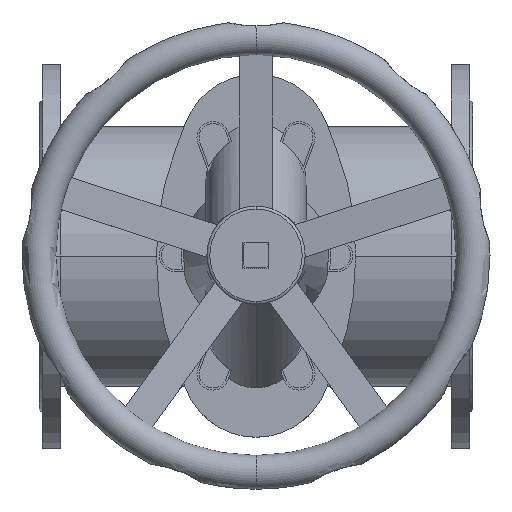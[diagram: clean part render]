
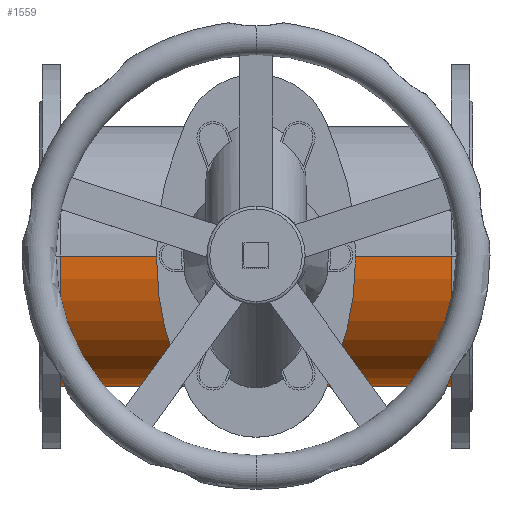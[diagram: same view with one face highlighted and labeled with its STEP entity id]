
A CAD part, top view. The second image highlights one B-rep face of the part: STEP entity #1559.
In plain terms, the highlighted cylindrical face has radius 135 mm (diameter 270 mm), a partial arc.
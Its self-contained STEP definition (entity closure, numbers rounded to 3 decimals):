
#1559=ADVANCED_FACE('',(#3184),#3185,.T.);
#3184=FACE_OUTER_BOUND('',#5362,.T.);
#3185=CYLINDRICAL_SURFACE('',#5363,135.0);
#5362=EDGE_LOOP('',(#8316,#8317,#8318,#8319));
#5363=AXIS2_PLACEMENT_3D('',#8320,#8321,#8322);
#8316=ORIENTED_EDGE('',*,*,#12588,.F.);
#8317=ORIENTED_EDGE('',*,*,#12418,.T.);
#8318=ORIENTED_EDGE('',*,*,#12589,.F.);
#8319=ORIENTED_EDGE('',*,*,#12401,.T.);
#8320=CARTESIAN_POINT('',(47.0,0.0,0.));
#8321=DIRECTION('',(1.0,0.0,0.));
#8322=DIRECTION('',(0.,0.0,1.0));
#12401=EDGE_CURVE('',#14864,#14863,#14866,.T.);
#12418=EDGE_CURVE('',#14891,#14892,#14893,.T.);
#12588=EDGE_CURVE('',#14891,#14863,#15151,.T.);
#12589=EDGE_CURVE('',#14864,#14892,#15152,.T.);
#14863=VERTEX_POINT('',#18212);
#14864=VERTEX_POINT('',#18213);
#14866=CIRCLE('',#18215,135.0);
#14891=VERTEX_POINT('',#18348);
#14892=VERTEX_POINT('',#18349);
#14893=CIRCLE('',#18350,135.0);
#15151=LINE('',#18692,#18693);
#15152=LINE('',#18694,#18695);
#18212=CARTESIAN_POINT('',(453.0,0.0,135.0));
#18213=CARTESIAN_POINT('',(453.0,0.,-135.0));
#18215=AXIS2_PLACEMENT_3D('',#21555,#21556,#21557);
#18348=CARTESIAN_POINT('',(47.0,0.0,135.0));
#18349=CARTESIAN_POINT('',(47.0,0.,-135.0));
#18350=AXIS2_PLACEMENT_3D('',#21582,#21583,#21584);
#18692=CARTESIAN_POINT('',(47.0,0.,135.0));
#18693=VECTOR('',#21789,1.0);
#18694=CARTESIAN_POINT('',(47.0,0.,-135.0));
#18695=VECTOR('',#21790,1.0);
#21555=CARTESIAN_POINT('',(453.0,0.0,0.));
#21556=DIRECTION('',(-1.0,0.0,0.));
#21557=DIRECTION('',(0.,0.0,1.0));
#21582=CARTESIAN_POINT('',(47.0,0.0,0.));
#21583=DIRECTION('',(1.0,0.0,0.));
#21584=DIRECTION('',(0.,0.0,1.0));
#21789=DIRECTION('',(1.0,0.0,0.));
#21790=DIRECTION('',(-1.0,-0.0,0.));
